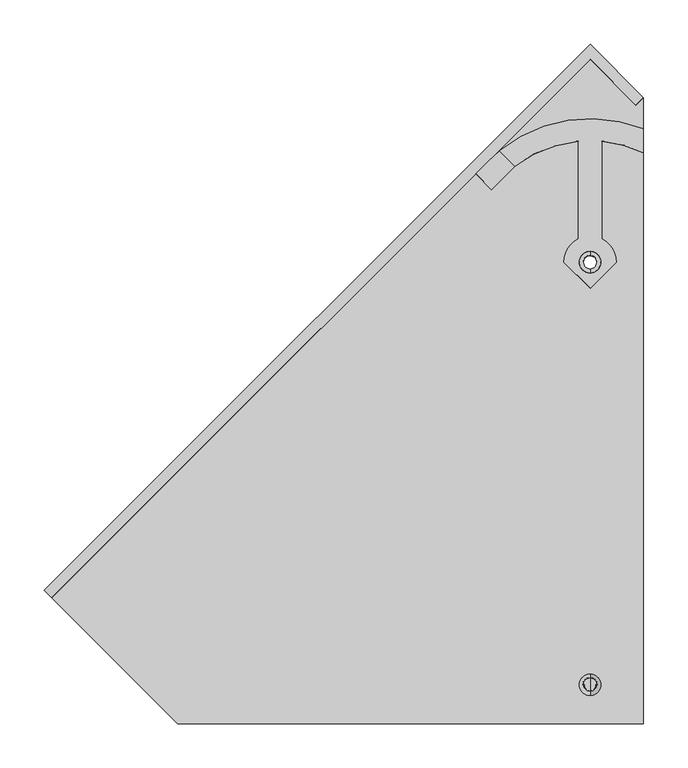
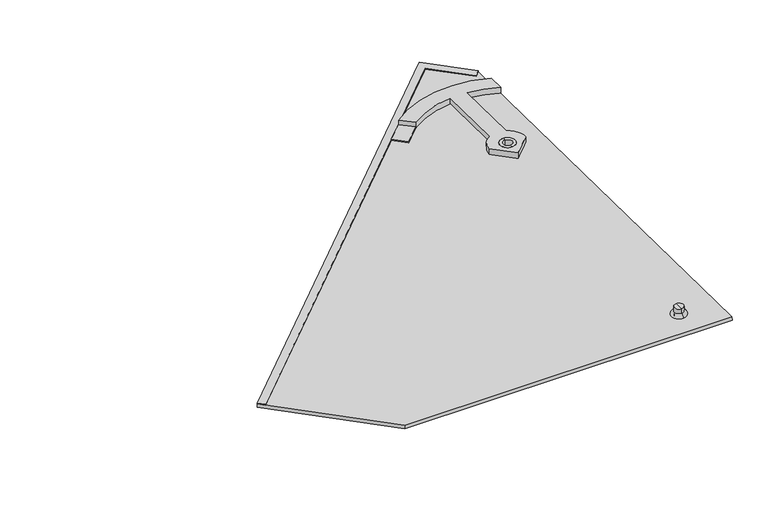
"""IFC4 building model written with IfcOpenShell, lengths in millimetres: proxy geometry, Roofing_Panels_SunStyle_Tuile_Coin-Bas-Grand-Droit : Coin Bas Grand Droit - Noir."""

from ifc_helpers import new_model, si_unit, point, frame, frame_2d, origin, place, context, project, spatial, polyline, circle_curve, ellipse_curve, trimmed, segment, composite_curve, outline, extrude, source, transform, mapped, element, save
from ifc_brep_helpers import plane_surface, cylinder_surface, revolved_surface, advanced_brep


def generic_models_f07d85a3(model_context):
    return source(origin(), model_context, "Body", "SolidModel", [
        advanced_brep(
        [(0.0, -113.1716253, 18.1989674), (0.0, -99.8385448, 17.9756715), (0.0, -100.2068538, -4.0161979), (0.0, -113.5399344, -3.792902), (0.0, -118.6708541, 18.2910658), (0.0, -94.3393159, 17.8835731), (0.0, -113.7218578, 23.2048726), (0.0, -99.1209949, 22.9603445), (0.0, -106.2873979, 31.0854967), (0.0, -98.9869664, 30.9632326), (0.0, -113.5878294, 31.2077608), (0.0, -106.8733941, -3.9045499)],
        [
            (0, 1, circle_curve(frame((0.0, -106.505085, 18.0873194), z_axis=(0.0, -0.016745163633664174, -0.9998597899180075), x_axis=(0.0, 0.9998597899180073, -0.01674516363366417)), 6.6674751)),
            (1, 2),
            (2, 3, circle_curve(frame((0.0, -106.8733941, -3.9045499), z_axis=(0.0, 0.016745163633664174, 0.9998597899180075), x_axis=(0.0, 0.9998597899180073, -0.01674516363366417)), 6.6674751)),
            (3, 0),
            (1, 0, circle_curve(frame((0.0, -106.505085, 18.0873194), z_axis=(0.0, -0.016745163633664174, -0.9998597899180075), x_axis=(0.0, 0.9998597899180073, -0.01674516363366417)), 6.6674751)),
            (3, 2, circle_curve(frame((0.0, -106.8733941, -3.9045499), z_axis=(0.0, 0.016745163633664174, 0.9998597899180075), x_axis=(0.0, 0.9998597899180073, -0.01674516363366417)), 6.6674751)),
            (4, 5, circle_curve(frame((0.0, -106.505085, 18.0873194), z_axis=(0.0, -0.016745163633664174, -0.9998597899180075), x_axis=(0.0, 0.9998597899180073, -0.01674516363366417)), 12.1674751)),
            (5, 1),
            (0, 4),
            (5, 4, circle_curve(frame((0.0, -106.505085, 18.0873194), z_axis=(0.0, -0.016745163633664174, -0.9998597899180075), x_axis=(0.0, 0.9998597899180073, -0.01674516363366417)), 12.1674751)),
            (6, 7, circle_curve(frame((0.0, -106.4214264, 23.0826085), z_axis=(0.0, -0.016745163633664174, -0.9998597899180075), x_axis=(0.0, 0.9998597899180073, -0.01674516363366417)), 7.3014552)),
            (7, 5, circle_curve(frame((0.0, -99.4251928, 17.8835731), z_axis=(-1.0, 0.0, 0.0), x_axis=(0.0, 1.0, 0.0)), 5.0858769)),
            (4, 6, circle_curve(frame((0.0, -113.5878294, 18.120762), z_axis=(-1.0, 0.0, 0.0), x_axis=(0.0, -0.9994391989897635, 0.03348563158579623)), 5.0858769)),
            (7, 6, circle_curve(frame((0.0, -106.4214264, 23.0826085), z_axis=(0.0, -0.016745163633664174, -0.9998597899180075), x_axis=(0.0, 0.9998597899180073, -0.01674516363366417)), 7.3014552)),
            (8, 9),
            (9, 10, circle_curve(frame((0.0, -106.2873979, 31.0854967), z_axis=(0.0, 0.016745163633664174, 0.9998597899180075), x_axis=(0.0, 0.9998597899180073, -0.01674516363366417)), 7.3014552)),
            (10, 8),
            (10, 9, circle_curve(frame((0.0, -106.2873979, 31.0854967), z_axis=(0.0, 0.016745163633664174, 0.9998597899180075), x_axis=(0.0, 0.9998597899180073, -0.01674516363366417)), 7.3014552)),
            (2, 11),
            (11, 3),
            (9, 7),
            (6, 10),
        ],
        [
            cylinder_surface(frame((0.0, -106.1530399, 39.1080636), z_axis=(0.0, 0.01674516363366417, 0.9998597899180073), x_axis=(0.0, 0.9998597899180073, -0.01674516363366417)), 6.6674751),
            plane_surface(frame((0.0, -106.505085, 18.0873194), z_axis=(0.0, -0.016745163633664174, -0.9998597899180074), x_axis=(0.0, 0.9998597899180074, -0.016745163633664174))),
            revolved_surface(trimmed(ellipse_curve(frame((0.0, -99.4251928, 17.8835731), z_axis=(1.0, 0.0, 0.0), x_axis=(0.0, 1.0, 0.0)), 5.0858769, 5.0858769), [point((0.0, -94.3393159, 17.8835731))], [point((0.0, -99.1209949, 22.9603445))], True, "CARTESIAN"), (0.0, -106.1530399, 39.1080636), (0.0, 0.01674516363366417, 0.9998597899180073)),
            plane_surface(frame((0.0, -106.2873979, 31.0854967), z_axis=(0.0, 0.016745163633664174, 0.9998597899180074), x_axis=(0.0, 0.9998597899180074, -0.016745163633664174))),
            plane_surface(frame((0.0, -106.8733941, -3.9045499), z_axis=(0.0, -0.016745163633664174, -0.9998597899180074), x_axis=(0.0, 0.9998597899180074, -0.016745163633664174))),
            cylinder_surface(frame((0.0, -106.1530399, 39.1080636), z_axis=(0.0, 0.01674516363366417, 0.9998597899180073), x_axis=(0.0, 0.9998597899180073, -0.01674516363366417)), 7.3014552),
        ],
        [
            (0, [[1, 2, 3, 4]]),
            (0, [[5, -4, 6, -2]]),
            (1, [[7, 8, -1, 9]]),
            (1, [[10, -9, -5, -8]]),
            (2, [[11, 12, -7, 13]]),
            (2, [[14, -13, -10, -12]]),
            (3, [[15, 16, 17]]),
            (3, [[-17, 18, -15]]),
            (4, [[-3, 19, 20]]),
            (4, [[-6, -20, -19]]),
            (5, [[-16, 21, -11, 22]]),
            (5, [[-18, -22, -14, -21]]),
        ],
    ),
        extrude(outline(polyline([(0.0, -11.9999999), (0.0, 0.0), (870.0609764, 1e-07), (870.0728943, -84.9940404), (858.0728943, -84.995723), (858.062659, -11.9999999), (0.0, -11.9999999)])), frame((-615.2694709, -0.1135393, 16.3055258), z_axis=(0.0, 0.016745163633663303, 0.9998597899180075), x_axis=(0.7071563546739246, 0.706958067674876, -0.011839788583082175)), (0.0, 0.0, 1.0), 1.5),
        advanced_brep(
        [(0.0, 361.8961325, 20.2441668), (0.0, 377.2289335, 19.9873805), (0.0, 381.7283021, 19.9120273), (0.0, 357.3967639, 20.31952), (0.0, 361.6282103, 4.2464102), (0.0, 376.9610105, 3.9896239), (0.0, 357.1288413, 4.3217634), (0.0, 381.4603795, 3.9142707)],
        [
            (0, 1, circle_curve(frame((0.0, 369.562533, 20.1157737), z_axis=(0.0, -0.016745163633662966, -0.9998597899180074), x_axis=(0.0, 0.9998597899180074, -0.016745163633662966)), 7.6674755)),
            (1, 2),
            (2, 3, circle_curve(frame((0.0, 369.562533, 20.1157737), z_axis=(0.0, 0.016745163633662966, 0.9998597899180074), x_axis=(0.0, 0.9998597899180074, -0.016745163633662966)), 12.1674751)),
            (3, 0),
            (1, 0, circle_curve(frame((0.0, 369.562533, 20.1157737), z_axis=(0.0, -0.016745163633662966, -0.9998597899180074), x_axis=(0.0, 0.9998597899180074, -0.016745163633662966)), 7.6674755)),
            (3, 2, circle_curve(frame((0.0, 369.562533, 20.1157737), z_axis=(0.0, 0.016745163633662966, 0.9998597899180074), x_axis=(0.0, 0.9998597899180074, -0.016745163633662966)), 12.1674751)),
            (4, 5, circle_curve(frame((0.0, 369.2946104, 4.118017), z_axis=(0.0, -0.016745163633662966, -0.9998597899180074), x_axis=(0.0, 0.9998597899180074, -0.016745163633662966)), 7.6674751)),
            (5, 1),
            (0, 4),
            (5, 4, circle_curve(frame((0.0, 369.2946104, 4.118017), z_axis=(0.0, -0.016745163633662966, -0.9998597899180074), x_axis=(0.0, 0.9998597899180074, -0.016745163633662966)), 7.6674751)),
            (6, 7, circle_curve(frame((0.0, 369.2946104, 4.118017), z_axis=(0.0, -0.016745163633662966, -0.9998597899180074), x_axis=(0.0, 0.9998597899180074, -0.016745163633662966)), 12.1674751)),
            (7, 5),
            (4, 6),
            (7, 6, circle_curve(frame((0.0, 369.2946104, 4.118017), z_axis=(0.0, -0.016745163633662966, -0.9998597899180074), x_axis=(0.0, 0.9998597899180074, -0.016745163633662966)), 12.1674751)),
            (2, 7),
            (6, 3),
        ],
        [
            plane_surface(frame((0.0, 369.562533, 20.1157737), z_axis=(0.0, 0.016745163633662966, 0.9998597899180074), x_axis=(0.0, 0.9998597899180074, -0.016745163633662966))),
            revolved_surface(polyline([(0.0, 377.2289330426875, 19.987380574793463), (0.0, 376.96101042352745, 3.989623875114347)]), (0.0, 369.562533, 20.1157737), (0.0, 0.016745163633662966, 0.9998597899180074)),
            plane_surface(frame((0.0, 369.2946104, 4.118017), z_axis=(0.0, -0.016745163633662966, -0.9998597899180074), x_axis=(0.0, 0.9998597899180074, -0.016745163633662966))),
            cylinder_surface(frame((0.0, 369.562533, 20.1157737), z_axis=(0.0, 0.016745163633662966, 0.9998597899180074), x_axis=(0.0, 0.9998597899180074, -0.016745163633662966)), 12.1674751),
        ],
        [
            (0, [[1, 2, 3, 4]]),
            (0, [[5, -4, 6, -2]]),
            (1, [[7, 8, -1, 9]]),
            (1, [[10, -9, -5, -8]]),
            (2, [[11, 12, -7, 13]]),
            (2, [[14, -13, -10, -12]]),
            (3, [[-3, 15, -11, 16]]),
            (3, [[-6, -16, -14, -15]]),
        ],
    ),
        extrude(outline(polyline([(245.4549697, 12.0003225), (185.3593204, -48.1037539), (-519.7641358, -48.1037539), (-519.7641358, 477.2122075), (-369.7279119, 627.2694709), (245.4549697, 12.0003225)]), holes=[composite_curve([segment(trimmed(circle_curve(frame_2d((0.0, 12.0)), 12.0), [point((0.0, 24.0))], [point((0.0, 0.0))], True, "CARTESIAN"), True, "CONTINUOUS"), segment(trimmed(circle_curve(frame_2d((0.0, 12.0)), 12.0), [point((0.0, 0.0))], [point((0.0, 24.0))], True, "CARTESIAN"), True, "CONTINUOUS")], self_intersect=False), composite_curve([segment(trimmed(circle_curve(frame_2d((-476.0, 12.0)), 8.0), [point((-476.0, 20.0))], [point((-476.0, 4.0))], True, "CARTESIAN"), True, "CONTINUOUS"), segment(trimmed(circle_curve(frame_2d((-476.0, 12.0)), 8.0), [point((-476.0, 4.0))], [point((-476.0, 20.0))], True, "CARTESIAN"), True, "CONTINUOUS")], self_intersect=False)]), frame((12.0, 369.462062, 4.1152126), z_axis=(0.0, 0.01674516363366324, 0.9998597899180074), x_axis=(0.0, 0.9998597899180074, -0.01674516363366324)), (0.0, 0.0, 1.0), 6.0),
        advanced_brep(
        [(-128.9467134, 469.1477223, 10.9469178), (-111.2690438, 451.4725314, 11.2429333), (-84.9431983, 477.7946858, 10.8021027), (-102.0275718, 494.8742688, 10.5160622), (-114.2509691, 483.8393459, 10.7008697), (-128.9467134, 469.1058594, 8.4472683), (-114.2509691, 483.797483, 8.2012202), (-102.0275718, 494.8324058, 8.0164127), (60.1037539, 519.5218584, 7.6029258), (60.1037539, 492.7956258, 8.0505237), (13.3, 505.6435355, 7.8353532), (13.3, 395.7666527, 9.6755176), (29.3894281, 369.562533, 10.1143714), (0.0, 340.1772257, 10.6065021), (-29.3894281, 369.562533, 10.1143714), (-13.3, 395.7666527, 9.6755176), (-13.3, 505.6435355, 7.8353532), (-84.944396, 477.7516253, 8.3024733), (-111.2690438, 451.4306685, 8.7432838), (12.0, 369.562533, 10.1143714), (-12.0, 369.562533, 10.1143714), (60.1037539, 519.6893101, 17.6015237), (-102.0275718, 494.9998575, 18.0150106), (-84.944396, 477.9190769, 18.3010712), (-13.3, 505.8109871, 17.8339511), (-13.3, 395.9341043, 19.6741155), (-29.3894281, 369.7299846, 20.1129693), (0.0, 340.3446773, 20.6051), (29.3894281, 369.7299846, 20.1129693), (13.3, 395.9341043, 19.6741155), (13.3, 505.8109871, 17.8339511), (60.1037539, 492.9630774, 18.0491216), (12.0, 369.7299846, 20.1129693), (-12.0, 369.7299846, 20.1129693)],
        [
            (0, 1),
            (1, 2),
            (2, 3),
            (3, 4, circle_curve(frame((0.0, 369.6043959, 12.6140208), z_axis=(0.0, 0.01674516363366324, 0.9998597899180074), x_axis=(-1.0, 0.0, 0.0)), 161.57527)),
            (4, 0),
            (5, 6),
            (6, 7, circle_curve(frame((0.0, 369.562533, 10.1143714), z_axis=(0.0, -0.01674516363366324, -0.9998597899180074), x_axis=(-1.0, 0.0, 0.0)), 161.57527)),
            (7, 8, circle_curve(frame((0.0, 369.562533, 10.1143714), z_axis=(0.0, -0.01674516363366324, -0.9998597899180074), x_axis=(-1.0, 0.0, 0.0)), 161.57527)),
            (8, 9),
            (9, 10, circle_curve(frame((0.0, 365.5555068, 10.1814791), z_axis=(0.0, 0.01674516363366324, 0.9998597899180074), x_axis=(-1.0, 0.0, 0.0)), 140.737522)),
            (10, 11),
            (11, 12, circle_curve(frame((0.0, 369.562533, 10.1143714), z_axis=(0.0, -0.01674516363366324, -0.9998597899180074), x_axis=(-1.0, 0.0, 0.0)), 29.3894281)),
            (12, 13),
            (13, 14),
            (14, 15, circle_curve(frame((0.0, 369.562533, 10.1143714), z_axis=(0.0, -0.01674516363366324, -0.9998597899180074), x_axis=(-1.0, 0.0, 0.0)), 29.3894281)),
            (15, 16),
            (16, 17, circle_curve(frame((0.0, 365.5555068, 10.1814791), z_axis=(0.0, 0.01674516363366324, 0.9998597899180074), x_axis=(-1.0, 0.0, 0.0)), 140.737522)),
            (17, 18),
            (18, 5),
            (19, 20, circle_curve(frame((0.0, 369.562533, 10.1143714), z_axis=(0.0, 0.01674516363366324, 0.9998597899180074), x_axis=(-1.0, 0.0, 0.0)), 12.0)),
            (20, 19, circle_curve(frame((0.0, 369.562533, 10.1143714), z_axis=(0.0, 0.01674516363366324, 0.9998597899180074), x_axis=(-1.0, 0.0, 0.0)), 12.0)),
            (4, 6),
            (5, 0),
            (18, 1),
            (3, 7),
            (17, 2),
            (21, 22, circle_curve(frame((0.0, 369.7299846, 20.1129693), z_axis=(0.0, 0.01674516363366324, 0.9998597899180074), x_axis=(-1.0, 0.0, 0.0)), 161.57527)),
            (22, 23),
            (23, 24, circle_curve(frame((0.0, 365.7229584, 20.180077), z_axis=(0.0, -0.01674516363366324, -0.9998597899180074), x_axis=(-1.0, 0.0, 0.0)), 140.737522)),
            (24, 25),
            (25, 26, circle_curve(frame((0.0, 369.7299846, 20.1129693), z_axis=(0.0, 0.01674516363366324, 0.9998597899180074), x_axis=(-1.0, 0.0, 0.0)), 29.3894281)),
            (26, 27),
            (27, 28),
            (28, 29, circle_curve(frame((0.0, 369.7299846, 20.1129693), z_axis=(0.0, 0.01674516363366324, 0.9998597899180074), x_axis=(-1.0, 0.0, 0.0)), 29.3894281)),
            (29, 30),
            (30, 31, circle_curve(frame((0.0, 365.7229584, 20.180077), z_axis=(0.0, -0.01674516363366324, -0.9998597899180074), x_axis=(-1.0, 0.0, 0.0)), 140.737522)),
            (31, 21),
            (32, 33, circle_curve(frame((0.0, 369.7299846, 20.1129693), z_axis=(0.0, -0.01674516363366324, -0.9998597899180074), x_axis=(-1.0, 0.0, 0.0)), 12.0)),
            (33, 32, circle_curve(frame((0.0, 369.7299846, 20.1129693), z_axis=(0.0, -0.01674516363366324, -0.9998597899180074), x_axis=(-1.0, 0.0, 0.0)), 12.0)),
            (29, 11),
            (10, 30),
            (28, 12),
            (27, 13),
            (26, 14),
            (25, 15),
            (24, 16),
            (21, 8),
            (3, 22),
            (33, 20),
            (19, 32),
            (2, 23),
            (9, 31),
        ],
        [
            plane_surface(frame((0.0, 340.2190886, 13.1061516), z_axis=(0.0, 0.016745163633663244, 0.9998597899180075), x_axis=(0.7071067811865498, -0.7070076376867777, 0.01184061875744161))),
            plane_surface(frame((0.0, 340.1772257, 10.6065021), z_axis=(0.0, -0.016745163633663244, -0.9998597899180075), x_axis=(-0.7071067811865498, 0.7070076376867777, -0.01184061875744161))),
            plane_surface(frame((-114.2509691, 483.8393459, 10.7008697), z_axis=(-0.7070572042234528, 0.7070572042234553, -0.011841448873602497), x_axis=(0.0, -0.016745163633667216, -0.9998597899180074))),
            plane_surface(frame((-128.9467134, 469.1477223, 10.9469178), z_axis=(-0.7071067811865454, -0.7070076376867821, 0.011840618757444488), x_axis=(0.0, -0.016745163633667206, -0.9998597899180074))),
            cylinder_surface(frame((0.0, 369.562533, 10.1143714), z_axis=(0.0, 0.01674516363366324, 0.9998597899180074), x_axis=(-1.0, 0.0, 0.0)), 161.57527),
            plane_surface(frame((-111.2690438, 451.4725314, 11.2429333), z_axis=(0.7071067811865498, -0.7070076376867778, 0.011840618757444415), x_axis=(0.0, -0.016745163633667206, -0.9998597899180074))),
            plane_surface(frame((-161.57527, 369.7299846, 20.1129693), z_axis=(0.0, 0.016745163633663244, 0.9998597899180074), x_axis=(0.0, -0.9998597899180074, 0.016745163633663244))),
            plane_surface(frame((13.3, 395.9341043, 19.6741155), z_axis=(1.0000000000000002, 0.0, 0.0), x_axis=(0.0, -0.016745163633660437, -0.9998597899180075))),
            cylinder_surface(frame((0.0, 369.562533, 10.1143714), z_axis=(0.0, 0.01674516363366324, 0.9998597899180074), x_axis=(-1.0, 0.0, 0.0)), 29.3894281),
            plane_surface(frame((0.0, 340.3446773, 20.6051), z_axis=(0.7071067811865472, -0.7070076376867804, 0.011840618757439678), x_axis=(0.0, -0.016745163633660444, -0.9998597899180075))),
            plane_surface(frame((-29.3894281, 369.7299846, 20.1129693), z_axis=(-0.7071067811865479, -0.7070076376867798, 0.01184061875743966), x_axis=(0.0, -0.016745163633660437, -0.9998597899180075))),
            plane_surface(frame((-13.3, 505.8109871, 17.8339511), z_axis=(-1.0000000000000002, 0.0, 0.0), x_axis=(0.0, -0.01674516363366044, -0.9998597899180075))),
            revolved_surface(polyline([(-12.0, 369.562533, 10.1143714), (-12.0, 369.72998463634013, 20.112969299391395)]), (0.0, 369.562533, 10.1143714), (0.0, -0.01674516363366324, -0.9998597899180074)),
            plane_surface(frame((-102.0275718, 494.9998575, 18.0150106), z_axis=(-0.7071067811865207, -0.7070076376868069, 0.011840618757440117), x_axis=(0.0, -0.01674516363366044, -0.9998597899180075))),
            revolved_surface(polyline([(-140.737522, 365.5555067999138, 10.18147909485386), (-140.737522, 365.722958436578, 20.18007701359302)]), (0.0, 365.5555068, 10.1814791), (0.0, -0.01674516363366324, -0.9998597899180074)),
            revolved_surface(polyline([(-140.737522, 365.5555068, 10.1814791), (-140.737522, 365.72295843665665, 20.180077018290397)]), (0.0, 365.5555068, 10.1814791), (0.0, -0.01674516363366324, -0.9998597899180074)),
            plane_surface(frame((60.1037539, 492.9630774, 18.0491216), z_axis=(1.0000000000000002, 0.0, 0.0), x_axis=(0.0, -0.01674516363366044, -0.9998597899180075))),
        ],
        [
            (0, [[1, 2, 3, 4, 5]]),
            (1, [[6, 7, 8, 9, 10, 11, 12, 13, 14, 15, 16, 17, 18, 19], [20, 21]]),
            (2, [[-5, 22, -6, 23]]),
            (3, [[-1, -23, -19, 24]]),
            (4, [[-4, 25, -7, -22]]),
            (5, [[-2, -24, -18, 26]]),
            (6, [[27, 28, 29, 30, 31, 32, 33, 34, 35, 36, 37], [38, 39]]),
            (7, [[-35, 40, -11, 41]]),
            (8, [[-34, 42, -12, -40]]),
            (9, [[-33, 43, -13, -42]]),
            (10, [[-32, 44, -14, -43]]),
            (8, [[-31, 45, -15, -44]]),
            (11, [[-30, 46, -16, -45]]),
            (4, [[-27, 47, -8, -25, 48]]),
            (12, [[-39, 49, -20, 50]]),
            (12, [[-38, -50, -21, -49]]),
            (13, [[-28, -48, -3, 51]]),
            (14, [[-36, -41, -10, 52]]),
            (15, [[-29, -51, -26, -17, -46]]),
            (16, [[-37, -52, -9, -47]]),
        ],
    ),
    ])


if __name__ == "__main__":
    model = new_model("IFC4")
    model_context = context("Model", 3, world=origin())
    ifc_project = project(units=[si_unit("LENGTHUNIT", "METRE", prefix="MILLI")], contexts=[model_context])
    site = spatial("IfcSite", under=ifc_project)
    building = spatial("IfcBuilding", under=site)
    placement = place(None, origin())
    generic_models_shape = generic_models_f07d85a3(model_context)
    element("IfcBuildingElementProxy", 1, Name="Roofing_Panels_SunStyle_Tuile_Coin-Bas-Grand-Droit : Coin Bas Grand Droit - Noir", ObjectType="Roofing_Panels_SunStyle_Tuile_Coin-Bas-Grand-Droit : Coin Bas Grand Droit - Noir", at=placement, inside=building, context=model_context, shape_type="MappedRepresentation", body=[
        mapped(generic_models_shape, transform((0.0, 0.0, 0.0), x_axis=(1.0, 0.0, 0.0), y_axis=(0.0, 1.0, 0.0), z_axis=(0.0, 0.0, 1.0))),
    ])
    save(model, "model.ifc")
